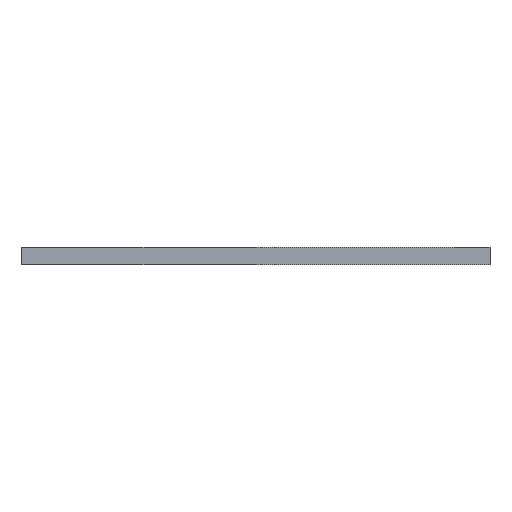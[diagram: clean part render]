
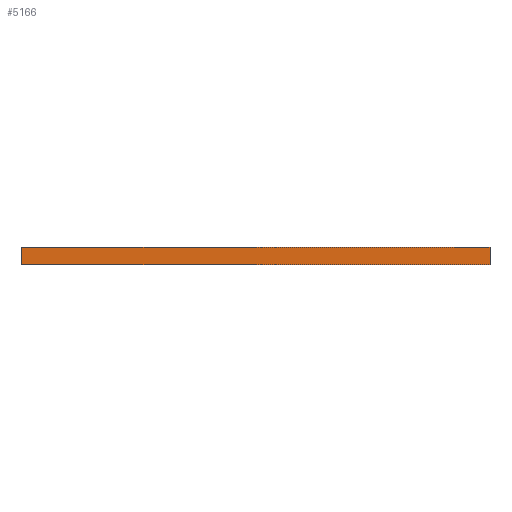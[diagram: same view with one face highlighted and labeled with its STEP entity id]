
A CAD part, front view. The second image highlights one B-rep face of the part: STEP entity #5166.
In plain terms, the highlighted planar face has unit normal (0, -1, 0).
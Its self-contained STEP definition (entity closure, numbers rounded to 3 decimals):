
#460=PLANE('',#5846);
#686=FACE_OUTER_BOUND('',#1352,.T.);
#1352=EDGE_LOOP('',(#4717,#4718,#4719,#4720));
#1576=LINE('',#8742,#1808);
#1579=LINE('',#8750,#1811);
#1583=LINE('',#8756,#1815);
#1584=LINE('',#8758,#1816);
#1808=VECTOR('',#7394,1000.);
#1811=VECTOR('',#7399,1000.);
#1815=VECTOR('',#7407,1000.);
#1816=VECTOR('',#7410,1000.);
#2697=VERTEX_POINT('',#8735);
#2700=VERTEX_POINT('',#8740);
#2703=VERTEX_POINT('',#8747);
#2704=VERTEX_POINT('',#8749);
#3368=EDGE_CURVE('',#2700,#2697,#1576,.T.);
#3371=EDGE_CURVE('',#2704,#2703,#1579,.T.);
#3375=EDGE_CURVE('',#2700,#2704,#1583,.T.);
#3376=EDGE_CURVE('',#2697,#2703,#1584,.T.);
#4717=ORIENTED_EDGE('',*,*,#3371,.T.);
#4718=ORIENTED_EDGE('',*,*,#3376,.F.);
#4719=ORIENTED_EDGE('',*,*,#3368,.F.);
#4720=ORIENTED_EDGE('',*,*,#3375,.T.);
#5166=ADVANCED_FACE('',(#686),#460,.F.);
#5846=AXIS2_PLACEMENT_3D('',#8759,#7411,#7412);
#7394=DIRECTION('',(1.,0.,0.));
#7399=DIRECTION('',(1.,0.,0.));
#7407=DIRECTION('',(0.,0.,-1.));
#7410=DIRECTION('',(0.,0.,-1.));
#7411=DIRECTION('center_axis',(0.,1.,0.));
#7412=DIRECTION('ref_axis',(-1.,0.,0.));
#8735=CARTESIAN_POINT('',(20.,-176.,1.5));
#8740=CARTESIAN_POINT('',(-20.,-176.,1.5));
#8742=CARTESIAN_POINT('',(12.,-176.,1.5));
#8747=CARTESIAN_POINT('',(20.,-176.,0.));
#8749=CARTESIAN_POINT('',(-20.,-176.,0.));
#8750=CARTESIAN_POINT('',(12.,-176.,0.));
#8756=CARTESIAN_POINT('',(-20.,-176.,1.5));
#8758=CARTESIAN_POINT('',(20.,-176.,1.5));
#8759=CARTESIAN_POINT('Origin',(12.,-176.,1.5));
